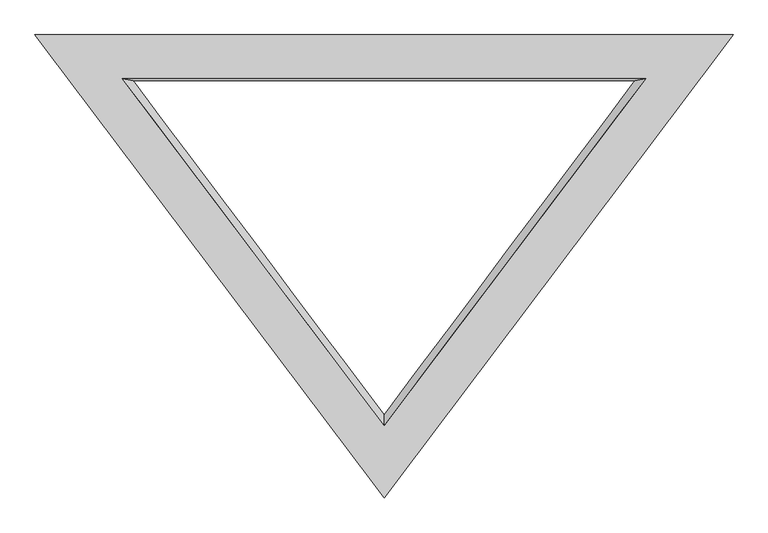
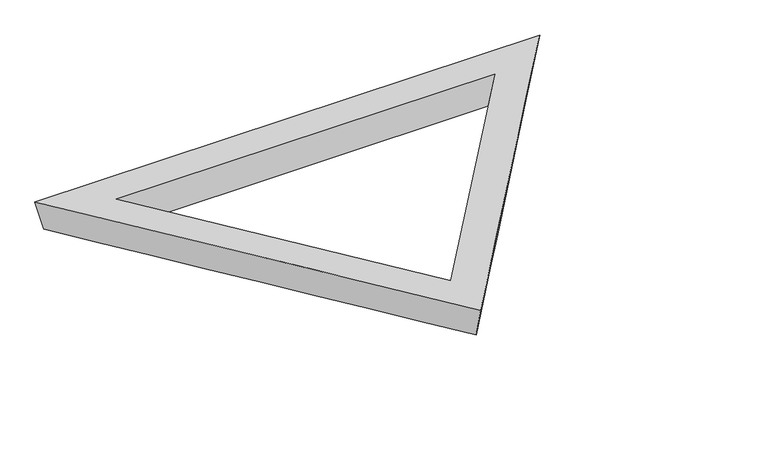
"""IFC4 building model written with IfcOpenShell, lengths in millimetres: plate geometry."""

from ifc_helpers import new_model, si_unit, frame, origin, place, context, project, spatial, source, transform, mapped, element, save
from ifc_brep_helpers import plane_surface, spline_surface, advanced_brep


def plate_75dee1e8(model_context):
    return source(origin(), model_context, "Body", "AdvancedBrep", [
        advanced_brep(
        [(4927.4062988, 5576.4059526, 0.0), (4877.8995185, 5586.7077969, 196.6333943), (6096.0, 3970.3307663, 197.2902962), (6096.0, 4019.3114392, 0.0), (7314.1004815, 5586.7077969, 196.6333943), (7264.5937012, 5576.4059526, 0.0), (6096.0, 3680.7880947, 0.0), (7671.1550774, 5779.6059526, 0.0), (7721.6713147, 5789.9077801, 196.5508131), (6096.0, 3632.6984099, 197.4275113), (4520.8449226, 5779.6059526, 0.0), (4470.3286853, 5789.9077801, 196.5508131)],
        [
            (0, 1),
            (1, 2),
            (2, 3),
            (3, 0),
            (2, 4),
            (4, 5),
            (5, 3),
            (0, 5),
            (4, 1),
            (6, 7),
            (7, 8),
            (8, 9),
            (9, 6),
            (7, 10),
            (10, 11),
            (11, 8),
            (9, 11),
            (10, 6),
        ],
        [
            spline_surface(1, 1, [[(4927.4062988, 5576.4059526, 0.0), (6096.0, 4019.3114392, 0.0)], [(4877.8995185, 5586.7077969, 196.6333943), (6096.0, 3970.3307663, 197.2902962)]], [2, 2], [2, 2], [0.0, 1.0], [0.0, 1.0]),
            spline_surface(1, 1, [[(6096.0, 4019.3114392, 0.0), (7264.5937012, 5576.4059526, 0.0)], [(6096.0, 3970.3307663, 197.2902962), (7314.1004815, 5586.7077969, 196.6333943)]], [2, 2], [2, 2], [0.0, 1.0], [0.0, 1.0]),
            plane_surface(frame((6096.0, 5576.4059526, 0.0), z_axis=(0.0, -0.9986304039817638, 0.05231936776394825), x_axis=(-1.0, 0.0, 0.0))),
            spline_surface(1, 1, [[(6096.0, 3680.7880947, 0.0), (6096.0, 3632.6984099, 197.4275113)], [(7671.1550774, 5779.6059526, 0.0), (7721.6713147, 5789.9077801, 196.5508131)]], [2, 2], [2, 2], [0.0, 1.0], [0.0, 1.0]),
            plane_surface(frame((6096.0, 5779.6059526, 0.0), z_axis=(0.0, 0.9986292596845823, -0.052341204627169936), x_axis=(-1.0, 0.0, 0.0))),
            spline_surface(1, 1, [[(4520.8449226, 5779.6059526, 0.0), (4470.3286853, 5789.9077801, 196.5508131)], [(6096.0, 3680.7880947, 0.0), (6096.0, 3632.6984099, 197.4275113)]], [2, 2], [2, 2], [0.0, 1.0], [0.0, 1.0]),
            plane_surface(frame((6096.0, 5070.83799, 196.8430458), z_axis=(0.0, 0.0004064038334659, 0.9999999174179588), x_axis=(0.601838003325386, -0.7986181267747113, 0.00032456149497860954))),
            plane_surface(frame((6096.0, 5080.0, 0.0), z_axis=(0.0, 0.0, -1.0000000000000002), x_axis=(-0.6002540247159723, 0.7998094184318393, 0.0))),
        ],
        [
            (0, [[1, 2, 3, 4]]),
            (1, [[-3, 5, 6, 7]]),
            (2, [[-1, 8, -6, 9]]),
            (3, [[10, 11, 12, 13]]),
            (4, [[-11, 14, 15, 16]]),
            (5, [[-13, 17, -15, 18]]),
            (6, [[-12, -16, -17], [-2, -9, -5]]),
            (7, [[-10, -18, -14], [-4, -7, -8]]),
        ],
    ),
    ])


if __name__ == "__main__":
    model = new_model("IFC4")
    model_context = context("Model", 3, world=origin())
    ifc_project = project(units=[si_unit("LENGTHUNIT", "METRE", prefix="MILLI")], contexts=[model_context])
    site = spatial("IfcSite", under=ifc_project)
    building = spatial("IfcBuilding", under=site)
    placement = place(None, origin())
    plate_shape = plate_75dee1e8(model_context)
    element("IfcPlate", 1, ObjectType="tn_cpanel_patbase_triangle_flat_seamless_frame_02_cylinder : tn_cpanel_pattern_mullion_t8\"xh8\"", at=placement, inside=building, context=model_context, shape_type="MappedRepresentation", body=[
        mapped(plate_shape, transform((0.0, 0.0, 0.0), x_axis=(1.0, 0.0, 0.0), y_axis=(0.0, 1.0, 0.0), z_axis=(0.0, 0.0, 1.0))),
    ])
    save(model, "model.ifc")
